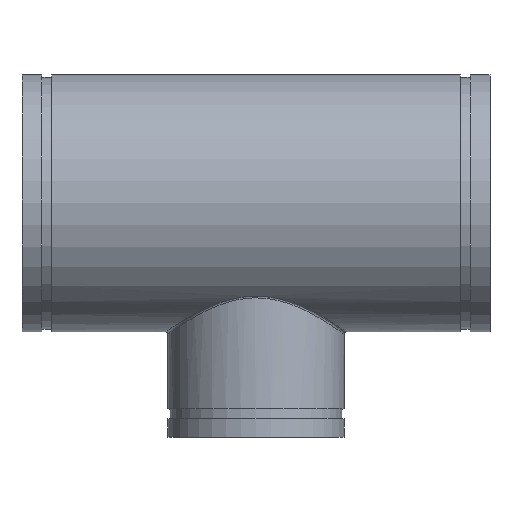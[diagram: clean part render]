
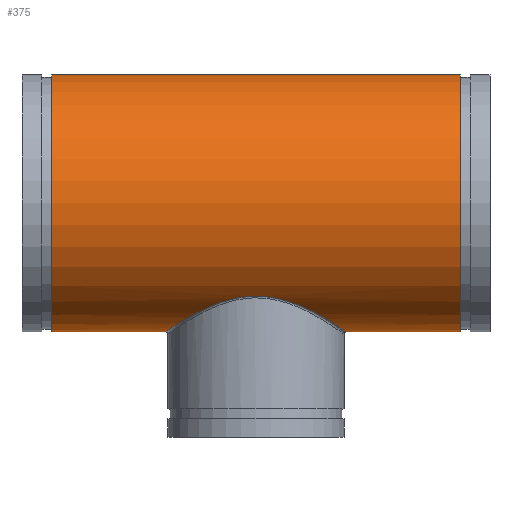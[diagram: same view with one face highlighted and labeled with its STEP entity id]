
A CAD part, top view. The second image highlights one B-rep face of the part: STEP entity #375.
In plain terms, the highlighted cylindrical face has radius 167.64 mm (diameter 335.28 mm), a full revolution.
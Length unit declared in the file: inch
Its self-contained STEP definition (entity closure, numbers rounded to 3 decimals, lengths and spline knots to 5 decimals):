
#54=FACE_BOUND('',#119,.T.);
#65=LINE('',#875,#76);
#76=VECTOR('',#483,6.6);
#87=CYLINDRICAL_SURFACE('',#415,6.6);
#98=FACE_OUTER_BOUND('',#118,.T.);
#118=EDGE_LOOP('',(#266,#267,#268,#269));
#119=EDGE_LOOP('',(#270));
#150=B_SPLINE_CURVE_WITH_KNOTS('',3,(#835,#836,#837,#838,#839,#840,#841,
#842,#843,#844,#845,#846,#847,#848,#849,#850,#851,#852,#853,#854,#855,#856,
#857,#858,#859,#860,#861,#862,#863,#864,#865,#866,#867,#868,#869,#870),
 .UNSPECIFIED.,.T.,.F.,(4,1,1,1,1,1,1,1,1,1,1,1,1,1,1,1,1,1,1,1,1,1,1,1,
1,1,1,1,1,1,1,1,1,4),(-72.38231,-69.79723,-67.21215,
-64.62707,-62.04198,-58.59521,-56.01012,
-55.14843,-54.28674,-53.42504,-51.70165,
-48.25488,-44.8081,-41.36132,-39.63793,
-37.91455,-36.19116,-34.46777,-32.74438,
-31.02099,-27.57421,-24.12744,-22.40405,
-20.68066,-18.09558,-17.66473,-17.23388,
-13.78711,-10.34033,-7.75525,-5.17017,
-2.58508,-1.29254,0.),.UNSPECIFIED.);
#154=CIRCLE('',#416,6.6);
#155=CIRCLE('',#417,6.6);
#182=VERTEX_POINT('',#791);
#185=VERTEX_POINT('',#872);
#186=VERTEX_POINT('',#874);
#219=EDGE_CURVE('',#182,#182,#150,.T.);
#220=EDGE_CURVE('',#185,#185,#154,.T.);
#221=EDGE_CURVE('',#185,#186,#65,.T.);
#222=EDGE_CURVE('',#186,#186,#155,.T.);
#266=ORIENTED_EDGE('',*,*,#220,.T.);
#267=ORIENTED_EDGE('',*,*,#221,.T.);
#268=ORIENTED_EDGE('',*,*,#222,.T.);
#269=ORIENTED_EDGE('',*,*,#221,.F.);
#270=ORIENTED_EDGE('',*,*,#219,.F.);
#375=ADVANCED_FACE('',(#98,#54),#87,.T.);
#415=AXIS2_PLACEMENT_3D('',#871,#479,#480);
#416=AXIS2_PLACEMENT_3D('',#873,#481,#482);
#417=AXIS2_PLACEMENT_3D('',#876,#484,#485);
#479=DIRECTION('center_axis',(-1.,0.,0.));
#480=DIRECTION('ref_axis',(0.,-1.,0.));
#481=DIRECTION('center_axis',(1.,0.,0.));
#482=DIRECTION('ref_axis',(0.,-1.,0.));
#483=DIRECTION('',(1.,0.,0.));
#484=DIRECTION('center_axis',(-1.,0.,0.));
#485=DIRECTION('ref_axis',(0.,-1.,0.));
#791=CARTESIAN_POINT('',(0.,-4.768,-4.56357));
#835=CARTESIAN_POINT('Ctrl Pts',(0.,-4.768,
-4.56357));
#836=CARTESIAN_POINT('Ctrl Pts',(0.36144,-4.768,-4.56357));
#837=CARTESIAN_POINT('Ctrl Pts',(1.08313,-4.85062,-4.47921));
#838=CARTESIAN_POINT('Ctrl Pts',(2.06701,-5.15981,-4.12881));
#839=CARTESIAN_POINT('Ctrl Pts',(2.92272,-5.55129,-3.59479));
#840=CARTESIAN_POINT('Ctrl Pts',(3.72025,-5.99575,-2.81951));
#841=CARTESIAN_POINT('Ctrl Pts',(4.31292,-6.37319,-1.84498));
#842=CARTESIAN_POINT('Ctrl Pts',(4.57087,-6.54642,-0.94076));
#843=CARTESIAN_POINT('Ctrl Pts',(4.64055,-6.59358,-0.35479));
#844=CARTESIAN_POINT('Ctrl Pts',(4.65473,-6.60322,-0.00001));
#845=CARTESIAN_POINT('Ctrl Pts',(4.63588,-6.59037,0.47273));
#846=CARTESIAN_POINT('Ctrl Pts',(4.50558,-6.50235,1.29007));
#847=CARTESIAN_POINT('Ctrl Pts',(4.05642,-6.20423,2.36453));
#848=CARTESIAN_POINT('Ctrl Pts',(3.19632,-5.6889,3.40028));
#849=CARTESIAN_POINT('Ctrl Pts',(2.26892,-5.23921,4.0271));
#850=CARTESIAN_POINT('Ctrl Pts',(1.41376,-4.95234,4.36567));
#851=CARTESIAN_POINT('Ctrl Pts',(0.72286,-4.80403,4.52639));
#852=CARTESIAN_POINT('Ctrl Pts',(0.00003,-4.74992,
4.5822));
#853=CARTESIAN_POINT('Ctrl Pts',(-0.72273,-4.80398,4.5264));
#854=CARTESIAN_POINT('Ctrl Pts',(-1.4137,-4.95233,4.36573));
#855=CARTESIAN_POINT('Ctrl Pts',(-2.2688,-5.23912,4.02705));
#856=CARTESIAN_POINT('Ctrl Pts',(-3.19629,-5.68889,3.40061));
#857=CARTESIAN_POINT('Ctrl Pts',(-3.91295,-6.11818,2.53696));
#858=CARTESIAN_POINT('Ctrl Pts',(-4.32605,-6.3833,1.72033));
#859=CARTESIAN_POINT('Ctrl Pts',(-4.57872,-6.5513,0.9457));
#860=CARTESIAN_POINT('Ctrl Pts',(-4.65724,-6.60497,0.29565));
#861=CARTESIAN_POINT('Ctrl Pts',(-4.6476,-6.59835,-0.17729));
#862=CARTESIAN_POINT('Ctrl Pts',(-4.61308,-6.57508,-0.76749));
#863=CARTESIAN_POINT('Ctrl Pts',(-4.37247,-6.41126,-1.74764));
#864=CARTESIAN_POINT('Ctrl Pts',(-3.72021,-5.99558,-2.8194));
#865=CARTESIAN_POINT('Ctrl Pts',(-2.92279,-5.5515,-3.59474));
#866=CARTESIAN_POINT('Ctrl Pts',(-2.06698,-5.15947,-4.12897));
#867=CARTESIAN_POINT('Ctrl Pts',(-1.24702,-4.90264,-4.42057));
#868=CARTESIAN_POINT('Ctrl Pts',(-0.54199,-4.78801,-4.54282));
#869=CARTESIAN_POINT('Ctrl Pts',(-0.18072,-4.768,-4.56357));
#870=CARTESIAN_POINT('Ctrl Pts',(0.,-4.768,
-4.56357));
#871=CARTESIAN_POINT('Origin',(12.,0.,0.));
#872=CARTESIAN_POINT('',(-10.485,6.6,0.));
#873=CARTESIAN_POINT('Origin',(-10.485,0.,0.));
#874=CARTESIAN_POINT('',(10.485,6.6,0.));
#875=CARTESIAN_POINT('',(12.,6.6,0.));
#876=CARTESIAN_POINT('Origin',(10.485,0.,0.));
